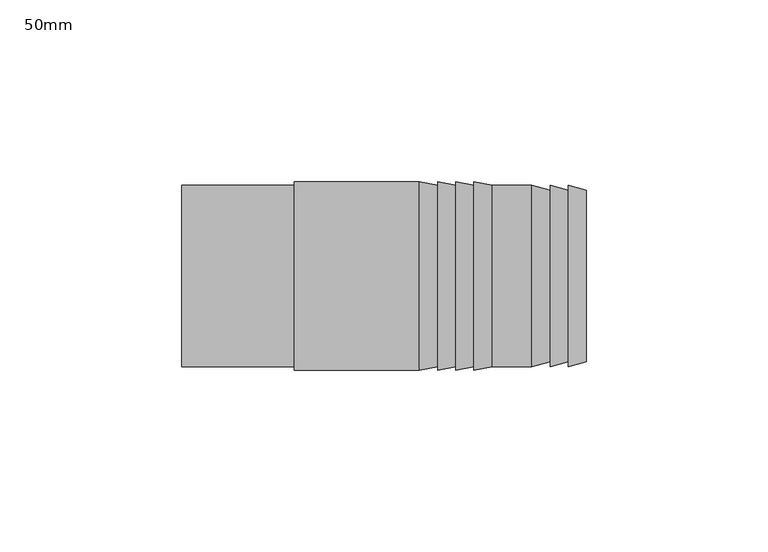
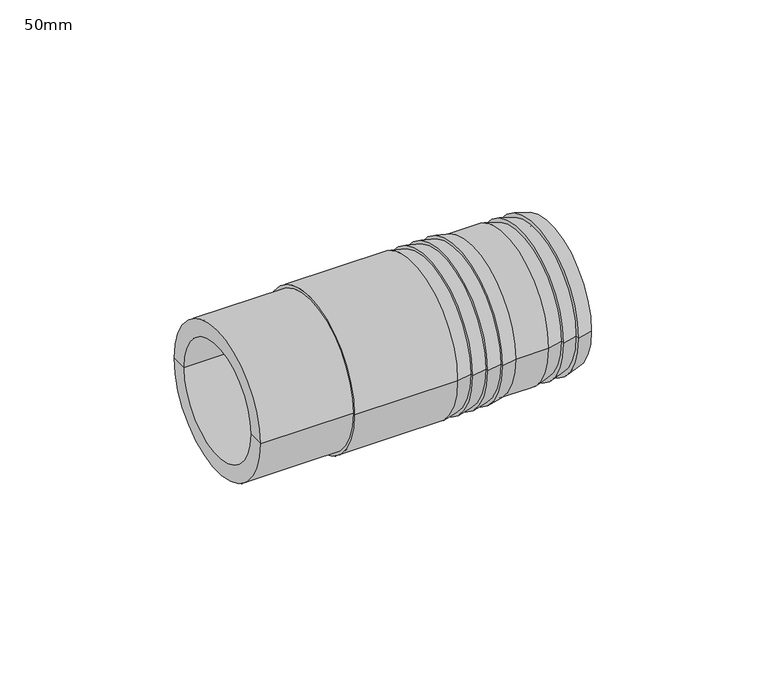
"""IFC4 building model written with IfcOpenShell, lengths in millimetres: pipe fitting geometry, Durapipe_PipeAccessories_PVC_HoseAdaptor : 50mm."""

from ifc_helpers import new_model, si_unit, frame, origin, place, context, project, spatial, polyline, circle_curve, source, transform, mapped, element, save
from ifc_brep_helpers import plane_surface, cylinder_surface, revolved_surface, advanced_brep


def pipe_fitting_50mm_83d2b3eb(model_context):
    return source(origin(), model_context, "Body", "AdvancedBrep", [
        advanced_brep(
        [(-55.75, -25.0, 0.0), (-55.75, 25.0, 0.0), (-24.75, 25.0, 0.0), (-24.75, -25.0, 0.0), (-55.75, -19.5, 0.0), (-55.75, 19.5, 0.0), (55.75, -19.5, 0.0), (55.75, 19.5, 0.0), (55.75, -23.660254, 0.0), (55.75, 23.660254, 0.0), (50.75, -25.0, 0.0), (50.75, 25.0, 0.0), (50.75, -23.660254, 0.0), (50.75, 23.660254, 0.0), (45.75, -25.0, 0.0), (45.75, 25.0, 0.0), (45.75, -23.660254, 0.0), (45.75, 23.660254, 0.0), (40.75, -25.0, 0.0), (40.75, 25.0, 0.0), (29.75, -25.0, 0.0), (29.75, 25.0, 0.0), (24.75, -26.0, 0.0), (24.75, 26.0, 0.0), (24.75, -25.0, 0.0), (24.75, 25.0, 0.0), (19.75, -26.0, 0.0), (19.75, 26.0, 0.0), (19.75, -25.0, 0.0), (19.75, 25.0, 0.0), (14.75, -26.0, 0.0), (14.75, 26.0, 0.0), (14.75, -25.0, 0.0), (14.75, 25.0, 0.0), (9.75, -26.0, 0.0), (9.75, 26.0, 0.0), (-24.75, -26.0, 0.0), (-24.75, 26.0, 0.0)],
        [
            (0, 1, circle_curve(frame((-55.75, 0.0, 0.0), z_axis=(1.0, 0.0, 0.0), x_axis=(0.0, 1.0, 0.0)), 25.0)),
            (1, 2),
            (2, 3, circle_curve(frame((-24.75, 0.0, 0.0), z_axis=(-1.0, 0.0, 0.0), x_axis=(0.0, 1.0, 0.0)), 25.0)),
            (3, 0),
            (1, 0, circle_curve(frame((-55.75, 0.0, 0.0), z_axis=(1.0, 0.0, 0.0), x_axis=(0.0, 1.0, 0.0)), 25.0)),
            (3, 2, circle_curve(frame((-24.75, 0.0, 0.0), z_axis=(-1.0, 0.0, 0.0), x_axis=(0.0, 1.0, 0.0)), 25.0)),
            (4, 5, circle_curve(frame((-55.75, 0.0, 0.0), z_axis=(1.0, 0.0, 0.0), x_axis=(0.0, 1.0, 0.0)), 19.5)),
            (5, 1),
            (0, 4),
            (5, 4, circle_curve(frame((-55.75, 0.0, 0.0), z_axis=(1.0, 0.0, 0.0), x_axis=(0.0, 1.0, 0.0)), 19.5)),
            (6, 7, circle_curve(frame((55.75, 0.0, 0.0), z_axis=(1.0, 0.0, 0.0), x_axis=(0.0, 1.0, 0.0)), 19.5)),
            (7, 5),
            (4, 6),
            (7, 6, circle_curve(frame((55.75, 0.0, 0.0), z_axis=(1.0, 0.0, 0.0), x_axis=(0.0, 1.0, 0.0)), 19.5)),
            (8, 9, circle_curve(frame((55.75, 0.0, 0.0), z_axis=(1.0, 0.0, 0.0), x_axis=(0.0, 1.0, 0.0)), 23.660254)),
            (9, 7),
            (6, 8),
            (9, 8, circle_curve(frame((55.75, 0.0, 0.0), z_axis=(1.0, 0.0, 0.0), x_axis=(0.0, 1.0, 0.0)), 23.660254)),
            (10, 11, circle_curve(frame((50.75, 0.0, 0.0), z_axis=(1.0, 0.0, 0.0), x_axis=(0.0, 1.0, 0.0)), 25.0)),
            (11, 9),
            (8, 10),
            (11, 10, circle_curve(frame((50.75, 0.0, 0.0), z_axis=(1.0, 0.0, 0.0), x_axis=(0.0, 1.0, 0.0)), 25.0)),
            (12, 13, circle_curve(frame((50.75, 0.0, 0.0), z_axis=(1.0, 0.0, 0.0), x_axis=(0.0, 1.0, 0.0)), 23.660254)),
            (13, 11),
            (10, 12),
            (13, 12, circle_curve(frame((50.75, 0.0, 0.0), z_axis=(1.0, 0.0, 0.0), x_axis=(0.0, 1.0, 0.0)), 23.660254)),
            (14, 15, circle_curve(frame((45.75, 0.0, 0.0), z_axis=(1.0, 0.0, 0.0), x_axis=(0.0, 1.0, 0.0)), 25.0)),
            (15, 13),
            (12, 14),
            (15, 14, circle_curve(frame((45.75, 0.0, 0.0), z_axis=(1.0, 0.0, 0.0), x_axis=(0.0, 1.0, 0.0)), 25.0)),
            (16, 17, circle_curve(frame((45.75, 0.0, 0.0), z_axis=(1.0, 0.0, 0.0), x_axis=(0.0, 1.0, 0.0)), 23.660254)),
            (17, 15),
            (14, 16),
            (17, 16, circle_curve(frame((45.75, 0.0, 0.0), z_axis=(1.0, 0.0, 0.0), x_axis=(0.0, 1.0, 0.0)), 23.660254)),
            (18, 19, circle_curve(frame((40.75, 0.0, 0.0), z_axis=(1.0, 0.0, 0.0), x_axis=(0.0, 1.0, 0.0)), 25.0)),
            (19, 17),
            (16, 18),
            (19, 18, circle_curve(frame((40.75, 0.0, 0.0), z_axis=(1.0, 0.0, 0.0), x_axis=(0.0, 1.0, 0.0)), 25.0)),
            (20, 21, circle_curve(frame((29.75, 0.0, 0.0), z_axis=(1.0, 0.0, 0.0), x_axis=(0.0, 1.0, 0.0)), 25.0)),
            (21, 19),
            (18, 20),
            (21, 20, circle_curve(frame((29.75, 0.0, 0.0), z_axis=(1.0, 0.0, 0.0), x_axis=(0.0, 1.0, 0.0)), 25.0)),
            (22, 23, circle_curve(frame((24.75, 0.0, 0.0), z_axis=(1.0, 0.0, 0.0), x_axis=(0.0, 1.0, 0.0)), 26.0)),
            (23, 21),
            (20, 22),
            (23, 22, circle_curve(frame((24.75, 0.0, 0.0), z_axis=(1.0, 0.0, 0.0), x_axis=(0.0, 1.0, 0.0)), 26.0)),
            (24, 25, circle_curve(frame((24.75, 0.0, 0.0), z_axis=(1.0, 0.0, 0.0), x_axis=(0.0, 1.0, 0.0)), 25.0)),
            (25, 23),
            (22, 24),
            (25, 24, circle_curve(frame((24.75, 0.0, 0.0), z_axis=(1.0, 0.0, 0.0), x_axis=(0.0, 1.0, 0.0)), 25.0)),
            (26, 27, circle_curve(frame((19.75, 0.0, 0.0), z_axis=(1.0, 0.0, 0.0), x_axis=(0.0, 1.0, 0.0)), 26.0)),
            (27, 25),
            (24, 26),
            (27, 26, circle_curve(frame((19.75, 0.0, 0.0), z_axis=(1.0, 0.0, 0.0), x_axis=(0.0, 1.0, 0.0)), 26.0)),
            (28, 29, circle_curve(frame((19.75, 0.0, 0.0), z_axis=(1.0, 0.0, 0.0), x_axis=(0.0, 1.0, 0.0)), 25.0)),
            (29, 27),
            (26, 28),
            (29, 28, circle_curve(frame((19.75, 0.0, 0.0), z_axis=(1.0, 0.0, 0.0), x_axis=(0.0, 1.0, 0.0)), 25.0)),
            (30, 31, circle_curve(frame((14.75, 0.0, 0.0), z_axis=(1.0, 0.0, 0.0), x_axis=(0.0, 1.0, 0.0)), 26.0)),
            (31, 29),
            (28, 30),
            (31, 30, circle_curve(frame((14.75, 0.0, 0.0), z_axis=(1.0, 0.0, 0.0), x_axis=(0.0, 1.0, 0.0)), 26.0)),
            (32, 33, circle_curve(frame((14.75, 0.0, 0.0), z_axis=(1.0, 0.0, 0.0), x_axis=(0.0, 1.0, 0.0)), 25.0)),
            (33, 31),
            (30, 32),
            (33, 32, circle_curve(frame((14.75, 0.0, 0.0), z_axis=(1.0, 0.0, 0.0), x_axis=(0.0, 1.0, 0.0)), 25.0)),
            (34, 35, circle_curve(frame((9.75, 0.0, 0.0), z_axis=(1.0, 0.0, 0.0), x_axis=(0.0, 1.0, 0.0)), 26.0)),
            (35, 33),
            (32, 34),
            (35, 34, circle_curve(frame((9.75, 0.0, 0.0), z_axis=(1.0, 0.0, 0.0), x_axis=(0.0, 1.0, 0.0)), 26.0)),
            (36, 37, circle_curve(frame((-24.75, 0.0, 0.0), z_axis=(1.0, 0.0, 0.0), x_axis=(0.0, 1.0, 0.0)), 26.0)),
            (37, 35),
            (34, 36),
            (37, 36, circle_curve(frame((-24.75, 0.0, 0.0), z_axis=(1.0, 0.0, 0.0), x_axis=(0.0, 1.0, 0.0)), 26.0)),
            (2, 37),
            (36, 3),
        ],
        [
            cylinder_surface(frame((-55.75, 0.0, 0.0), z_axis=(-1.0, 0.0, 0.0), x_axis=(0.0, 1.0, 0.0)), 25.0),
            plane_surface(frame((-55.75, 0.0, 0.0), z_axis=(-1.0, 0.0, 0.0), x_axis=(0.0, 1.0, 0.0))),
            revolved_surface(polyline([(-55.75, 19.5, 0.0), (55.75, 19.5, 0.0)]), (-55.75, 0.0, 0.0), (-1.0, 0.0, 0.0)),
            plane_surface(frame((55.75, 0.0, 0.0), z_axis=(1.0, 0.0, 0.0), x_axis=(0.0, 1.0, 0.0))),
            revolved_surface(polyline([(55.75, 23.660254, 0.0), (50.75, 25.0, 0.0)]), (-55.75, 0.0, 0.0), (-1.0, 0.0, 0.0)),
            plane_surface(frame((50.75, 0.0, 0.0), z_axis=(-1.0, 0.0, 0.0), x_axis=(0.0, 1.0, 0.0))),
            revolved_surface(polyline([(50.75, 23.660254, 0.0), (45.75, 25.0, 0.0)]), (-55.75, 0.0, 0.0), (-1.0, 0.0, 0.0)),
            plane_surface(frame((45.75, 0.0, 0.0), z_axis=(-1.0, 0.0, 0.0), x_axis=(0.0, 1.0, 0.0))),
            revolved_surface(polyline([(45.75, 23.660254, 0.0), (40.75, 25.0, 0.0)]), (-55.75, 0.0, 0.0), (-1.0, 0.0, 0.0)),
            revolved_surface(polyline([(29.75, 25.0, 0.0), (24.75, 26.0, 0.0)]), (-55.75, 0.0, 0.0), (-1.0, 0.0, 0.0)),
            plane_surface(frame((24.75, 0.0, 0.0), z_axis=(-1.0, 0.0, 0.0), x_axis=(0.0, 1.0, 0.0))),
            revolved_surface(polyline([(24.75, 25.0, 0.0), (19.75, 26.0, 0.0)]), (-55.75, 0.0, 0.0), (-1.0, 0.0, 0.0)),
            plane_surface(frame((19.75, 0.0, 0.0), z_axis=(-1.0, 0.0, 0.0), x_axis=(0.0, 1.0, 0.0))),
            revolved_surface(polyline([(19.75, 25.0, 0.0), (14.75, 26.0, 0.0)]), (-55.75, 0.0, 0.0), (-1.0, 0.0, 0.0)),
            plane_surface(frame((14.75, 0.0, 0.0), z_axis=(-1.0, 0.0, 0.0), x_axis=(0.0, 1.0, 0.0))),
            revolved_surface(polyline([(14.75, 25.0, 0.0), (9.75, 26.0, 0.0)]), (-55.75, 0.0, 0.0), (-1.0, 0.0, 0.0)),
            cylinder_surface(frame((-55.75, 0.0, 0.0), z_axis=(-1.0, 0.0, 0.0), x_axis=(0.0, 1.0, 0.0)), 26.0),
            plane_surface(frame((-24.75, 0.0, 0.0), z_axis=(-1.0, 0.0, 0.0), x_axis=(0.0, 1.0, 0.0))),
        ],
        [
            (0, [[1, 2, 3, 4]]),
            (0, [[5, -4, 6, -2]]),
            (1, [[7, 8, -1, 9]]),
            (1, [[10, -9, -5, -8]]),
            (2, [[11, 12, -7, 13]]),
            (2, [[14, -13, -10, -12]]),
            (3, [[15, 16, -11, 17]]),
            (3, [[18, -17, -14, -16]]),
            (4, [[19, 20, -15, 21]]),
            (4, [[22, -21, -18, -20]]),
            (5, [[23, 24, -19, 25]]),
            (5, [[26, -25, -22, -24]]),
            (6, [[27, 28, -23, 29]]),
            (6, [[30, -29, -26, -28]]),
            (7, [[31, 32, -27, 33]]),
            (7, [[34, -33, -30, -32]]),
            (8, [[35, 36, -31, 37]]),
            (8, [[38, -37, -34, -36]]),
            (0, [[39, 40, -35, 41]]),
            (0, [[42, -41, -38, -40]]),
            (9, [[43, 44, -39, 45]]),
            (9, [[46, -45, -42, -44]]),
            (10, [[47, 48, -43, 49]]),
            (10, [[50, -49, -46, -48]]),
            (11, [[51, 52, -47, 53]]),
            (11, [[54, -53, -50, -52]]),
            (12, [[55, 56, -51, 57]]),
            (12, [[58, -57, -54, -56]]),
            (13, [[59, 60, -55, 61]]),
            (13, [[62, -61, -58, -60]]),
            (14, [[63, 64, -59, 65]]),
            (14, [[66, -65, -62, -64]]),
            (15, [[67, 68, -63, 69]]),
            (15, [[70, -69, -66, -68]]),
            (16, [[71, 72, -67, 73]]),
            (16, [[74, -73, -70, -72]]),
            (17, [[-3, 75, -71, 76]]),
            (17, [[-6, -76, -74, -75]]),
        ],
    ),
    ])


if __name__ == "__main__":
    model = new_model("IFC4")
    model_context = context("Model", 3, world=origin())
    ifc_project = project(units=[si_unit("LENGTHUNIT", "METRE", prefix="MILLI")], contexts=[model_context])
    site = spatial("IfcSite", under=ifc_project)
    building = spatial("IfcBuilding", under=site)
    placement = place(None, origin())
    pipe_fitting_50mm_shape = pipe_fitting_50mm_83d2b3eb(model_context)
    element("IfcPipeFitting", 1, ObjectType="Durapipe_PipeAccessories_PVC_HoseAdaptor : 50mm", at=placement, inside=building, context=model_context, shape_type="MappedRepresentation", body=[
        mapped(pipe_fitting_50mm_shape, transform((0.0, 0.0, 0.0), x_axis=(1.0, 0.0, 0.0), y_axis=(0.0, 1.0, 0.0), z_axis=(0.0, 0.0, 1.0))),
    ])
    save(model, "model.ifc")
